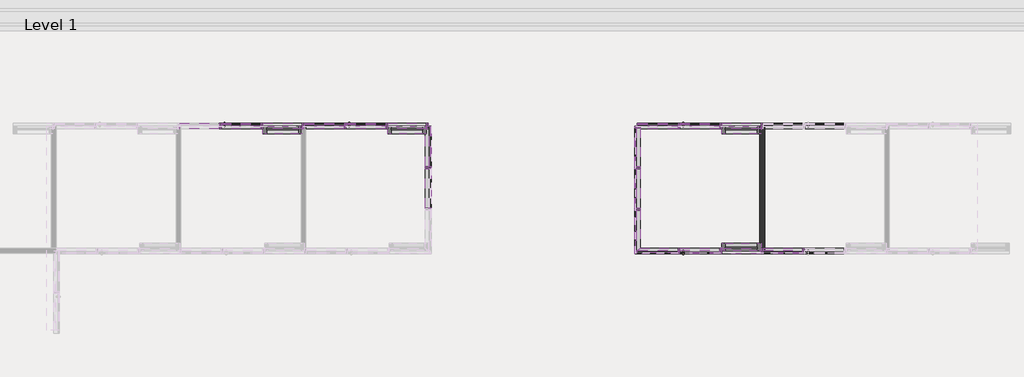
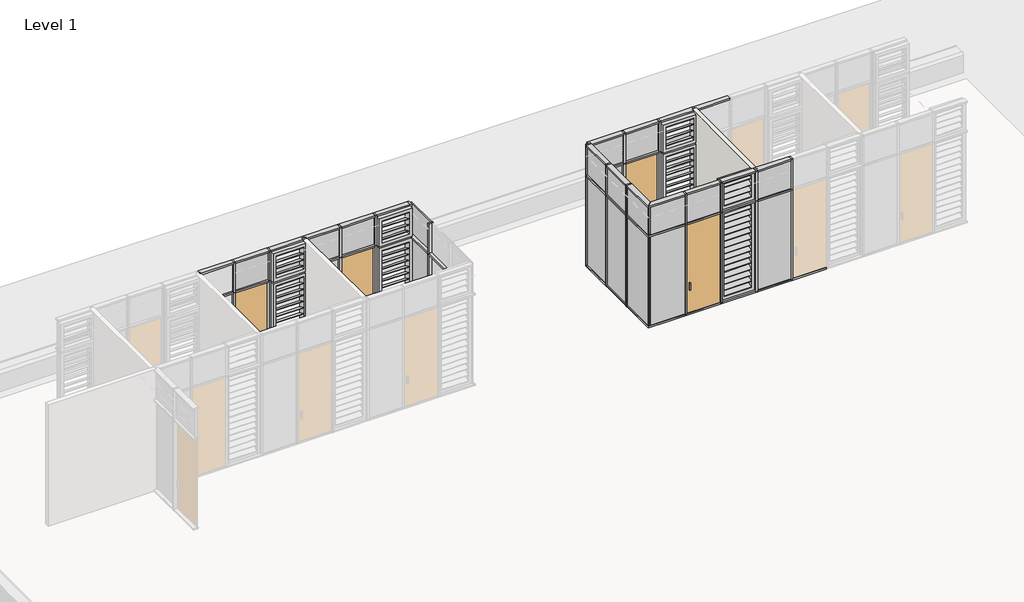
# One storey, part 15 of 32: 89 members, 28 plates, 4 doors, 1 wall.
"""IFC4 building model written with IfcOpenShell, lengths in millimetres."""

from ifc_helpers import new_model, si_unit, frame, origin, place, context, project, spatial, polyline, outline, extrude, transform, mapped, element, save
from components import curtain_wall_door_single_glass_nz_curtain_wall_door_single_2bf20aac, curtain_wall_door_single_glass_nz_curtain_wall_door_single_ff8afd41, rectangular_mullion_50x150mm_c4504768, rectangular_mullion_50x150mm_6c7cb899, rectangular_mullion_50x150mm_b0af8bb0, rectangular_mullion_50x150mm_bbc1c4ea, rectangular_mullion_50x150mm_1a36453b, rectangular_mullion_50x150mm_ef3a484d, rectangular_mullion_50x150mm_593aaa1e, rectangular_mullion_50x150mm_a65b6ca2, rectangular_mullion_50x150mm_38419d34, rectangular_mullion_50x150mm_68c91185, rectangular_mullion_50x150mm_eeb88b28, rectangular_mullion_50x150mm_0d540e17, rectangular_mullion_50x150mm_108cdc6f, rectangular_mullion_50x150mm_714122bf, rectangular_mullion_50x150mm_feac3df2, rectangular_mullion_50x150mm_2309bebb, rectangular_mullion_50x150mm_e53cf1c9, rectangular_mullion_50x150mm_f8d06da4, rectangular_mullion_50x150mm_4a5ed774, curtain_wall_panel_louver_20805_curtain_wall_panel_louver_4af505d4, curtain_wall_panel_louver_20805_curtain_wall_panel_louver_7a5f8102, curtain_wall_panel_louver_20805_curtain_wall_panel_louver_14332c5b, curtain_wall_panel_glass_louver_20805_curtain_wall_panel_036772b2, curtain_wall_panel_glass_louver_20805_curtain_wall_panel_a4448eae, curtain_wall_panel_glass_louver_20805_curtain_wall_panel_0f8e40a1, system_panel_glazed_a5e8ce8b, system_panel_glazed_2ffedfca, system_panel_glazed_7622d22c, system_panel_glazed_a434d42b, system_panel_glazed_53fe5bbb, system_panel_glazed_01376e9d, system_panel_glazed_57f08e05, system_panel_glazed_300e6ed4, system_panel_glazed_c118dd0e, system_panel_solid_585523e5, system_panel_solid_9660e4da, system_panel_solid_746005ab, system_panel_solid_10c0fb46

model = new_model("IFC4")

# Units and contexts
model_context = context("Model", 3, world=origin())
ifc_project = project(units=[si_unit("LENGTHUNIT", "METRE", prefix="MILLI")], contexts=[model_context])

# Site, building, storey
site = spatial("IfcSite", under=ifc_project)
building = spatial("IfcBuilding", under=site)
storey = spatial("IfcBuildingStorey", under=building, Name="Level 1", Elevation=2800.0)

# Doors
placement = place(None, origin())
curtain_wall_door_single_glass_nz_curtain_wall_door_single_shape = curtain_wall_door_single_glass_nz_curtain_wall_door_single_2bf20aac(model_context)
element("IfcDoor", 1, ObjectType="Curtain Wall Door-Single-Glass (NZ) : Curtain Wall Door-Single-Glass (NZ)", at=placement, inside=storey, context=model_context, shape_type="MappedRepresentation", body=[
    mapped(curtain_wall_door_single_glass_nz_curtain_wall_door_single_shape, transform((-66780.3056756, 5494.0800404, 2850.0), x_axis=(1.0, 0.0, 0.0), y_axis=(0.0, 1.0, 0.0), z_axis=(0.0, 0.0, 1.0))),
])
element("IfcDoor", 2, ObjectType="Curtain Wall Door-Single-Glass (NZ) : Curtain Wall Door-Single-Glass (NZ)", at=placement, inside=storey, context=model_context, shape_type="MappedRepresentation", body=[
    mapped(curtain_wall_door_single_glass_nz_curtain_wall_door_single_shape, transform((-75609.8408447, 5494.0800404, 2850.0), x_axis=(1.0, 0.0, 0.0), y_axis=(0.0, 1.0, 0.0), z_axis=(0.0, 0.0, 1.0))),
])
element("IfcDoor", 3, ObjectType="Curtain Wall Door-Single-Glass (NZ) : Curtain Wall Door-Single-Glass (NZ)", at=placement, inside=storey, context=model_context, shape_type="MappedRepresentation", body=[
    mapped(curtain_wall_door_single_glass_nz_curtain_wall_door_single_shape, transform((-78909.8408447, 5494.0800404, 2850.0), x_axis=(1.0, 0.0, 0.0), y_axis=(0.0, 1.0, 0.0), z_axis=(0.0, 0.0, 1.0))),
])
curtain_wall_door_single_glass_nz_curtain_wall_door_single_2_shape = curtain_wall_door_single_glass_nz_curtain_wall_door_single_ff8afd41(model_context)
element("IfcDoor", 4, ObjectType="Curtain Wall Door-Single-Glass (NZ) : Curtain Wall Door-Single-Glass (NZ)", at=placement, inside=storey, context=model_context, shape_type="MappedRepresentation", body=[
    mapped(curtain_wall_door_single_glass_nz_curtain_wall_door_single_2_shape, transform((-66780.3056756, 2194.0800404, 2850.0), x_axis=(1.0, 0.0, 0.0), y_axis=(0.0, 1.0, 0.0), z_axis=(0.0, 0.0, 1.0))),
])

# Members
rectangular_mullion_50x150mm_shape = rectangular_mullion_50x150mm_c4504768(model_context)
element("IfcMember", 5, ObjectType="Rectangular Mullion : 50x150mm", at=placement, inside=storey, context=model_context, shape_type="MappedRepresentation", body=[
    mapped(rectangular_mullion_50x150mm_shape, transform((-65155.3056756, 5494.0800404, 5800.0), x_axis=(0.0, 0.0, 1.0), y_axis=(0.0, -1.0, 0.0), z_axis=(1.0, 0.0, 0.0))),
])
element("IfcMember", 6, ObjectType="Rectangular Mullion : 50x150mm", at=placement, inside=storey, context=model_context, shape_type="MappedRepresentation", body=[
    mapped(rectangular_mullion_50x150mm_shape, transform((-66255.3056756, 5494.0800404, 5800.0), x_axis=(0.0, 0.0, 1.0), y_axis=(0.0, -1.0, 0.0), z_axis=(1.0, 0.0, 0.0))),
])
element("IfcMember", 7, ObjectType="Rectangular Mullion : 50x150mm", at=placement, inside=storey, context=model_context, shape_type="MappedRepresentation", body=[
    mapped(rectangular_mullion_50x150mm_shape, transform((-76184.8408447, 5494.0800404, 5800.0), x_axis=(0.0, 0.0, 1.0), y_axis=(0.0, -1.0, 0.0), z_axis=(1.0, 0.0, 0.0))),
])
element("IfcMember", 8, ObjectType="Rectangular Mullion : 50x150mm", at=placement, inside=storey, context=model_context, shape_type="MappedRepresentation", body=[
    mapped(rectangular_mullion_50x150mm_shape, transform((-79484.8408447, 5494.0800404, 5800.0), x_axis=(0.0, 0.0, 1.0), y_axis=(0.0, -1.0, 0.0), z_axis=(1.0, 0.0, 0.0))),
])
element("IfcMember", 9, ObjectType="Rectangular Mullion : 50x150mm", at=placement, inside=storey, context=model_context, shape_type="MappedRepresentation", body=[
    mapped(rectangular_mullion_50x150mm_shape, transform((-75084.8408447, 5494.0800404, 5800.0), x_axis=(0.0, 0.0, 1.0), y_axis=(0.0, -1.0, 0.0), z_axis=(1.0, 0.0, 0.0))),
])
element("IfcMember", 10, ObjectType="Rectangular Mullion : 50x150mm", at=placement, inside=storey, context=model_context, shape_type="MappedRepresentation", body=[
    mapped(rectangular_mullion_50x150mm_shape, transform((-77284.8408447, 5494.0800404, 5800.0), x_axis=(0.0, 0.0, 1.0), y_axis=(0.0, -1.0, 0.0), z_axis=(1.0, 0.0, 0.0))),
])
element("IfcMember", 11, ObjectType="Rectangular Mullion : 50x150mm", at=placement, inside=storey, context=model_context, shape_type="MappedRepresentation", body=[
    mapped(rectangular_mullion_50x150mm_shape, transform((-78384.8408447, 5494.0800404, 5800.0), x_axis=(0.0, 0.0, 1.0), y_axis=(0.0, -1.0, 0.0), z_axis=(1.0, 0.0, 0.0))),
])
element("IfcMember", 12, ObjectType="Rectangular Mullion : 50x150mm", at=placement, inside=storey, context=model_context, shape_type="MappedRepresentation", body=[
    mapped(rectangular_mullion_50x150mm_shape, transform((-73959.8408447, 3319.0800405, 5800.0), x_axis=(0.0, 0.0, 1.0), y_axis=(-1.0, 0.0, 0.0), z_axis=(0.0, -1.0, 0.0))),
])
element("IfcMember", 13, ObjectType="Rectangular Mullion : 50x150mm", at=placement, inside=storey, context=model_context, shape_type="MappedRepresentation", body=[
    mapped(rectangular_mullion_50x150mm_shape, transform((-68430.3056755, 4369.0800403, 5800.0), x_axis=(0.0, 0.0, 1.0), y_axis=(1.0, 0.0, 0.0), z_axis=(0.0, 1.0, 0.0))),
])
rectangular_mullion_50x150mm_2_shape = rectangular_mullion_50x150mm_6c7cb899(model_context)
element("IfcMember", 14, ObjectType="Rectangular Mullion : 50x150mm", at=placement, inside=storey, context=model_context, shape_type="MappedRepresentation", body=[
    mapped(rectangular_mullion_50x150mm_2_shape, transform((-65130.3056756, 5494.0800404, 2800.0), x_axis=(1.0, 0.0, 0.0), y_axis=(0.0, -1.0, 0.0), z_axis=(0.0, 0.0, -1.0))),
])
element("IfcMember", 15, ObjectType="Rectangular Mullion : 50x150mm", at=placement, inside=storey, context=model_context, shape_type="MappedRepresentation", body=[
    mapped(rectangular_mullion_50x150mm_2_shape, transform((-66230.3056756, 5494.0800404, 2800.0), x_axis=(1.0, 0.0, 0.0), y_axis=(0.0, -1.0, 0.0), z_axis=(0.0, 0.0, -1.0))),
])
element("IfcMember", 16, ObjectType="Rectangular Mullion : 50x150mm", at=placement, inside=storey, context=model_context, shape_type="MappedRepresentation", body=[
    mapped(rectangular_mullion_50x150mm_2_shape, transform((-67330.3056756, 5494.0800404, 2800.0), x_axis=(1.0, 0.0, 0.0), y_axis=(0.0, -1.0, 0.0), z_axis=(0.0, 0.0, -1.0))),
])
element("IfcMember", 17, ObjectType="Rectangular Mullion : 50x150mm", at=placement, inside=storey, context=model_context, shape_type="MappedRepresentation", body=[
    mapped(rectangular_mullion_50x150mm_2_shape, transform((-77259.8408447, 5494.0800404, 2800.0), x_axis=(1.0, 0.0, 0.0), y_axis=(0.0, -1.0, 0.0), z_axis=(0.0, 0.0, -1.0))),
])
element("IfcMember", 18, ObjectType="Rectangular Mullion : 50x150mm", at=placement, inside=storey, context=model_context, shape_type="MappedRepresentation", body=[
    mapped(rectangular_mullion_50x150mm_2_shape, transform((-75059.8408447, 5494.0800404, 2800.0), x_axis=(1.0, 0.0, 0.0), y_axis=(0.0, -1.0, 0.0), z_axis=(0.0, 0.0, -1.0))),
])
element("IfcMember", 19, ObjectType="Rectangular Mullion : 50x150mm", at=placement, inside=storey, context=model_context, shape_type="MappedRepresentation", body=[
    mapped(rectangular_mullion_50x150mm_2_shape, transform((-76159.8408447, 5494.0800404, 2800.0), x_axis=(1.0, 0.0, 0.0), y_axis=(0.0, -1.0, 0.0), z_axis=(0.0, 0.0, -1.0))),
])
element("IfcMember", 20, ObjectType="Rectangular Mullion : 50x150mm", at=placement, inside=storey, context=model_context, shape_type="MappedRepresentation", body=[
    mapped(rectangular_mullion_50x150mm_2_shape, transform((-78359.8408447, 5494.0800404, 2800.0), x_axis=(1.0, 0.0, 0.0), y_axis=(0.0, -1.0, 0.0), z_axis=(0.0, 0.0, -1.0))),
])
element("IfcMember", 21, ObjectType="Rectangular Mullion : 50x150mm", at=placement, inside=storey, context=model_context, shape_type="MappedRepresentation", body=[
    mapped(rectangular_mullion_50x150mm_2_shape, transform((-79459.8408447, 5494.0800404, 2800.0), x_axis=(1.0, 0.0, 0.0), y_axis=(0.0, -1.0, 0.0), z_axis=(0.0, 0.0, -1.0))),
])
element("IfcMember", 22, ObjectType="Rectangular Mullion : 50x150mm", at=placement, inside=storey, context=model_context, shape_type="MappedRepresentation", body=[
    mapped(rectangular_mullion_50x150mm_2_shape, transform((-73959.8408447, 4394.0800403, 2800.0), x_axis=(0.0, -1.0, 0.0), y_axis=(-1.0, 0.0, 0.0), z_axis=(0.0, 0.0, -1.0))),
])
element("IfcMember", 23, ObjectType="Rectangular Mullion : 50x150mm", at=placement, inside=storey, context=model_context, shape_type="MappedRepresentation", body=[
    mapped(rectangular_mullion_50x150mm_2_shape, transform((-68430.3056755, 3294.0800405, 2800.0), x_axis=(0.0, 1.0, 0.0), y_axis=(1.0, 0.0, 0.0), z_axis=(0.0, 0.0, -1.0))),
])
element("IfcMember", 24, ObjectType="Rectangular Mullion : 50x150mm", at=placement, inside=storey, context=model_context, shape_type="MappedRepresentation", body=[
    mapped(rectangular_mullion_50x150mm_2_shape, transform((-68430.3056755, 4394.0800403, 2800.0), x_axis=(0.0, 1.0, 0.0), y_axis=(1.0, 0.0, 0.0), z_axis=(0.0, 0.0, -1.0))),
])
rectangular_mullion_50x150mm_3_shape = rectangular_mullion_50x150mm_b0af8bb0(model_context)
element("IfcMember", 25, ObjectType="Rectangular Mullion : 50x150mm", at=placement, inside=storey, context=model_context, shape_type="MappedRepresentation", body=[
    mapped(rectangular_mullion_50x150mm_3_shape, transform((-64005.3056756, 5494.0800404, 2800.0), x_axis=(0.0, 0.0, -1.0), y_axis=(0.0, -1.0, 0.0), z_axis=(-1.0, 0.0, 0.0))),
])
element("IfcMember", 26, ObjectType="Rectangular Mullion : 50x150mm", at=placement, inside=storey, context=model_context, shape_type="MappedRepresentation", body=[
    mapped(rectangular_mullion_50x150mm_3_shape, transform((-66205.3056756, 5494.0800404, 2800.0), x_axis=(0.0, 0.0, -1.0), y_axis=(0.0, -1.0, 0.0), z_axis=(-1.0, 0.0, 0.0))),
])
element("IfcMember", 27, ObjectType="Rectangular Mullion : 50x150mm", at=placement, inside=storey, context=model_context, shape_type="MappedRepresentation", body=[
    mapped(rectangular_mullion_50x150mm_3_shape, transform((-67305.3056756, 5494.0800404, 2800.0), x_axis=(0.0, 0.0, -1.0), y_axis=(0.0, -1.0, 0.0), z_axis=(-1.0, 0.0, 0.0))),
])
element("IfcMember", 28, ObjectType="Rectangular Mullion : 50x150mm", at=placement, inside=storey, context=model_context, shape_type="MappedRepresentation", body=[
    mapped(rectangular_mullion_50x150mm_3_shape, transform((-65105.3056756, 5494.0800404, 2800.0), x_axis=(0.0, 0.0, -1.0), y_axis=(0.0, -1.0, 0.0), z_axis=(-1.0, 0.0, 0.0))),
])
element("IfcMember", 29, ObjectType="Rectangular Mullion : 50x150mm", at=placement, inside=storey, context=model_context, shape_type="MappedRepresentation", body=[
    mapped(rectangular_mullion_50x150mm_3_shape, transform((-77234.8408447, 5494.0800404, 2800.0), x_axis=(0.0, 0.0, -1.0), y_axis=(0.0, -1.0, 0.0), z_axis=(-1.0, 0.0, 0.0))),
])
element("IfcMember", 30, ObjectType="Rectangular Mullion : 50x150mm", at=placement, inside=storey, context=model_context, shape_type="MappedRepresentation", body=[
    mapped(rectangular_mullion_50x150mm_3_shape, transform((-76134.8408447, 5494.0800404, 2800.0), x_axis=(0.0, 0.0, -1.0), y_axis=(0.0, -1.0, 0.0), z_axis=(-1.0, 0.0, 0.0))),
])
element("IfcMember", 31, ObjectType="Rectangular Mullion : 50x150mm", at=placement, inside=storey, context=model_context, shape_type="MappedRepresentation", body=[
    mapped(rectangular_mullion_50x150mm_3_shape, transform((-78334.8408447, 5494.0800404, 2800.0), x_axis=(0.0, 0.0, -1.0), y_axis=(0.0, -1.0, 0.0), z_axis=(-1.0, 0.0, 0.0))),
])
element("IfcMember", 32, ObjectType="Rectangular Mullion : 50x150mm", at=placement, inside=storey, context=model_context, shape_type="MappedRepresentation", body=[
    mapped(rectangular_mullion_50x150mm_3_shape, transform((-79434.8408447, 5494.0800404, 2800.0), x_axis=(0.0, 0.0, -1.0), y_axis=(0.0, -1.0, 0.0), z_axis=(-1.0, 0.0, 0.0))),
])
element("IfcMember", 33, ObjectType="Rectangular Mullion : 50x150mm", at=placement, inside=storey, context=model_context, shape_type="MappedRepresentation", body=[
    mapped(rectangular_mullion_50x150mm_3_shape, transform((-73959.8408447, 4369.0800403, 2800.0), x_axis=(0.0, 0.0, -1.0), y_axis=(-1.0, 0.0, 0.0), z_axis=(0.0, 1.0, 0.0))),
])
element("IfcMember", 34, ObjectType="Rectangular Mullion : 50x150mm", at=placement, inside=storey, context=model_context, shape_type="MappedRepresentation", body=[
    mapped(rectangular_mullion_50x150mm_3_shape, transform((-68430.3056755, 3319.0800405, 2800.0), x_axis=(0.0, 0.0, -1.0), y_axis=(1.0, 0.0, 0.0), z_axis=(0.0, -1.0, 0.0))),
])
rectangular_mullion_50x150mm_4_shape = rectangular_mullion_50x150mm_bbc1c4ea(model_context)
element("IfcMember", 35, ObjectType="Rectangular Mullion : 50x150mm", at=placement, inside=storey, context=model_context, shape_type="MappedRepresentation", body=[
    mapped(rectangular_mullion_50x150mm_4_shape, transform((-65130.3056756, 5494.0800404, 5800.0), x_axis=(1.0, 0.0, 0.0), y_axis=(0.0, -1.0, 0.0), z_axis=(0.0, 0.0, -1.0))),
])
element("IfcMember", 36, ObjectType="Rectangular Mullion : 50x150mm", at=placement, inside=storey, context=model_context, shape_type="MappedRepresentation", body=[
    mapped(rectangular_mullion_50x150mm_4_shape, transform((-66230.3056756, 5494.0800404, 5800.0), x_axis=(1.0, 0.0, 0.0), y_axis=(0.0, -1.0, 0.0), z_axis=(0.0, 0.0, -1.0))),
])
element("IfcMember", 37, ObjectType="Rectangular Mullion : 50x150mm", at=placement, inside=storey, context=model_context, shape_type="MappedRepresentation", body=[
    mapped(rectangular_mullion_50x150mm_4_shape, transform((-67330.3056756, 5494.0800404, 5800.0), x_axis=(1.0, 0.0, 0.0), y_axis=(0.0, -1.0, 0.0), z_axis=(0.0, 0.0, -1.0))),
])
element("IfcMember", 38, ObjectType="Rectangular Mullion : 50x150mm", at=placement, inside=storey, context=model_context, shape_type="MappedRepresentation", body=[
    mapped(rectangular_mullion_50x150mm_4_shape, transform((-77259.8408447, 5494.0800404, 5800.0), x_axis=(1.0, 0.0, 0.0), y_axis=(0.0, -1.0, 0.0), z_axis=(0.0, 0.0, -1.0))),
])
element("IfcMember", 39, ObjectType="Rectangular Mullion : 50x150mm", at=placement, inside=storey, context=model_context, shape_type="MappedRepresentation", body=[
    mapped(rectangular_mullion_50x150mm_4_shape, transform((-75059.8408447, 5494.0800404, 5800.0), x_axis=(1.0, 0.0, 0.0), y_axis=(0.0, -1.0, 0.0), z_axis=(0.0, 0.0, -1.0))),
])
element("IfcMember", 40, ObjectType="Rectangular Mullion : 50x150mm", at=placement, inside=storey, context=model_context, shape_type="MappedRepresentation", body=[
    mapped(rectangular_mullion_50x150mm_4_shape, transform((-76159.8408447, 5494.0800404, 5800.0), x_axis=(1.0, 0.0, 0.0), y_axis=(0.0, -1.0, 0.0), z_axis=(0.0, 0.0, -1.0))),
])
element("IfcMember", 41, ObjectType="Rectangular Mullion : 50x150mm", at=placement, inside=storey, context=model_context, shape_type="MappedRepresentation", body=[
    mapped(rectangular_mullion_50x150mm_4_shape, transform((-78359.8408447, 5494.0800404, 5800.0), x_axis=(1.0, 0.0, 0.0), y_axis=(0.0, -1.0, 0.0), z_axis=(0.0, 0.0, -1.0))),
])
element("IfcMember", 42, ObjectType="Rectangular Mullion : 50x150mm", at=placement, inside=storey, context=model_context, shape_type="MappedRepresentation", body=[
    mapped(rectangular_mullion_50x150mm_4_shape, transform((-79459.8408447, 5494.0800404, 5800.0), x_axis=(1.0, 0.0, 0.0), y_axis=(0.0, -1.0, 0.0), z_axis=(0.0, 0.0, -1.0))),
])
element("IfcMember", 43, ObjectType="Rectangular Mullion : 50x150mm", at=placement, inside=storey, context=model_context, shape_type="MappedRepresentation", body=[
    mapped(rectangular_mullion_50x150mm_4_shape, transform((-68430.3056755, 3294.0800405, 5800.0), x_axis=(0.0, 1.0, 0.0), y_axis=(1.0, 0.0, 0.0), z_axis=(0.0, 0.0, -1.0))),
])
element("IfcMember", 44, ObjectType="Rectangular Mullion : 50x150mm", at=placement, inside=storey, context=model_context, shape_type="MappedRepresentation", body=[
    mapped(rectangular_mullion_50x150mm_4_shape, transform((-68430.3056755, 4394.0800403, 5800.0), x_axis=(0.0, 1.0, 0.0), y_axis=(1.0, 0.0, 0.0), z_axis=(0.0, 0.0, -1.0))),
])
rectangular_mullion_50x150mm_5_shape = rectangular_mullion_50x150mm_1a36453b(model_context)
element("IfcMember", 45, ObjectType="Rectangular Mullion : 50x150mm", at=placement, inside=storey, context=model_context, shape_type="MappedRepresentation", body=[
    mapped(rectangular_mullion_50x150mm_5_shape, transform((-64055.3056756, 5494.0800404, 6800.0), x_axis=(0.0, 0.0, 1.0), y_axis=(0.0, -1.0, 0.0), z_axis=(1.0, 0.0, 0.0))),
])
element("IfcMember", 46, ObjectType="Rectangular Mullion : 50x150mm", at=placement, inside=storey, context=model_context, shape_type="MappedRepresentation", body=[
    mapped(rectangular_mullion_50x150mm_5_shape, transform((-66255.3056756, 5494.0800404, 6800.0), x_axis=(0.0, 0.0, 1.0), y_axis=(0.0, -1.0, 0.0), z_axis=(1.0, 0.0, 0.0))),
])
element("IfcMember", 47, ObjectType="Rectangular Mullion : 50x150mm", at=placement, inside=storey, context=model_context, shape_type="MappedRepresentation", body=[
    mapped(rectangular_mullion_50x150mm_5_shape, transform((-65155.3056756, 5494.0800404, 6800.0), x_axis=(0.0, 0.0, 1.0), y_axis=(0.0, -1.0, 0.0), z_axis=(1.0, 0.0, 0.0))),
])
element("IfcMember", 48, ObjectType="Rectangular Mullion : 50x150mm", at=placement, inside=storey, context=model_context, shape_type="MappedRepresentation", body=[
    mapped(rectangular_mullion_50x150mm_5_shape, transform((-77284.8408447, 5494.0800404, 6800.0), x_axis=(0.0, 0.0, 1.0), y_axis=(0.0, -1.0, 0.0), z_axis=(1.0, 0.0, 0.0))),
])
element("IfcMember", 49, ObjectType="Rectangular Mullion : 50x150mm", at=placement, inside=storey, context=model_context, shape_type="MappedRepresentation", body=[
    mapped(rectangular_mullion_50x150mm_5_shape, transform((-75084.8408447, 5494.0800404, 6800.0), x_axis=(0.0, 0.0, 1.0), y_axis=(0.0, -1.0, 0.0), z_axis=(1.0, 0.0, 0.0))),
])
element("IfcMember", 50, ObjectType="Rectangular Mullion : 50x150mm", at=placement, inside=storey, context=model_context, shape_type="MappedRepresentation", body=[
    mapped(rectangular_mullion_50x150mm_5_shape, transform((-76184.8408447, 5494.0800404, 6800.0), x_axis=(0.0, 0.0, 1.0), y_axis=(0.0, -1.0, 0.0), z_axis=(1.0, 0.0, 0.0))),
])
element("IfcMember", 51, ObjectType="Rectangular Mullion : 50x150mm", at=placement, inside=storey, context=model_context, shape_type="MappedRepresentation", body=[
    mapped(rectangular_mullion_50x150mm_5_shape, transform((-78384.8408447, 5494.0800404, 6800.0), x_axis=(0.0, 0.0, 1.0), y_axis=(0.0, -1.0, 0.0), z_axis=(1.0, 0.0, 0.0))),
])
element("IfcMember", 52, ObjectType="Rectangular Mullion : 50x150mm", at=placement, inside=storey, context=model_context, shape_type="MappedRepresentation", body=[
    mapped(rectangular_mullion_50x150mm_5_shape, transform((-79484.8408447, 5494.0800404, 6800.0), x_axis=(0.0, 0.0, 1.0), y_axis=(0.0, -1.0, 0.0), z_axis=(1.0, 0.0, 0.0))),
])
element("IfcMember", 53, ObjectType="Rectangular Mullion : 50x150mm", at=placement, inside=storey, context=model_context, shape_type="MappedRepresentation", body=[
    mapped(rectangular_mullion_50x150mm_5_shape, transform((-68430.3056755, 4369.0800403, 6800.0), x_axis=(0.0, 0.0, 1.0), y_axis=(1.0, 0.0, 0.0), z_axis=(0.0, 1.0, 0.0))),
])
rectangular_mullion_50x150mm_6_shape = rectangular_mullion_50x150mm_ef3a484d(model_context)
element("IfcMember", 54, ObjectType="Rectangular Mullion : 50x150mm", at=placement, inside=storey, context=model_context, shape_type="MappedRepresentation", body=[
    mapped(rectangular_mullion_50x150mm_6_shape, transform((-67355.3056756, 5494.0800404, 5800.0), x_axis=(0.0, 0.0, 1.0), y_axis=(0.0, -1.0, 0.0), z_axis=(1.0, 0.0, 0.0))),
])
element("IfcMember", 55, ObjectType="Rectangular Mullion : 50x150mm", at=placement, inside=storey, context=model_context, shape_type="MappedRepresentation", body=[
    mapped(rectangular_mullion_50x150mm_6_shape, transform((-73959.8408447, 4419.0800403, 5800.0), x_axis=(0.0, 0.0, 1.0), y_axis=(-1.0, 0.0, 0.0), z_axis=(0.0, -1.0, 0.0))),
])
rectangular_mullion_50x150mm_7_shape = rectangular_mullion_50x150mm_593aaa1e(model_context)
element("IfcMember", 56, ObjectType="Rectangular Mullion : 50x150mm", at=placement, inside=storey, context=model_context, shape_type="MappedRepresentation", body=[
    mapped(rectangular_mullion_50x150mm_7_shape, transform((-68430.3056755, 5494.0800404, 2800.0), x_axis=(0.0, 0.0, -1.0), y_axis=(0.0, -1.0, 0.0), z_axis=(-1.0, 0.0, 0.0))),
])
element("IfcMember", 57, ObjectType="Rectangular Mullion : 50x150mm", at=placement, inside=storey, context=model_context, shape_type="MappedRepresentation", body=[
    mapped(rectangular_mullion_50x150mm_7_shape, transform((-73959.8408447, 5494.0800404, 2800.0), x_axis=(0.0, 0.0, -1.0), y_axis=(-1.0, 0.0, 0.0), z_axis=(0.0, 1.0, 0.0))),
])
element("IfcMember", 58, ObjectType="Rectangular Mullion : 50x150mm", at=placement, inside=storey, context=model_context, shape_type="MappedRepresentation", body=[
    mapped(rectangular_mullion_50x150mm_7_shape, transform((-67355.3056756, 5494.0800404, 6800.0), x_axis=(0.0, 0.0, 1.0), y_axis=(0.0, -1.0, 0.0), z_axis=(1.0, 0.0, 0.0))),
])
rectangular_mullion_50x150mm_8_shape = rectangular_mullion_50x150mm_a65b6ca2(model_context)
element("IfcMember", 59, ObjectType="Rectangular Mullion : 50x150mm", at=placement, inside=storey, context=model_context, shape_type="MappedRepresentation", body=[
    mapped(rectangular_mullion_50x150mm_8_shape, transform((-74009.8408447, 5494.0800404, 6800.0), x_axis=(0.0, 0.0, 1.0), y_axis=(0.0, -1.0, 0.0), z_axis=(1.0, 0.0, 0.0))),
])
element("IfcMember", 60, ObjectType="Rectangular Mullion : 50x150mm", at=placement, inside=storey, context=model_context, shape_type="MappedRepresentation", body=[
    mapped(rectangular_mullion_50x150mm_8_shape, transform((-68430.3056755, 5444.0800404, 6800.0), x_axis=(0.0, 0.0, 1.0), y_axis=(1.0, 0.0, 0.0), z_axis=(0.0, 1.0, 0.0))),
])
element("IfcMember", 61, ObjectType="Rectangular Mullion : 50x150mm", at=placement, inside=storey, context=model_context, shape_type="MappedRepresentation", body=[
    mapped(rectangular_mullion_50x150mm_8_shape, transform((-75034.8408447, 5494.0800404, 2800.0), x_axis=(0.0, 0.0, -1.0), y_axis=(0.0, -1.0, 0.0), z_axis=(-1.0, 0.0, 0.0))),
])
element("IfcMember", 62, ObjectType="Rectangular Mullion : 50x150mm", at=placement, inside=storey, context=model_context, shape_type="MappedRepresentation", body=[
    mapped(rectangular_mullion_50x150mm_8_shape, transform((-68430.3056755, 4419.0800403, 2800.0), x_axis=(0.0, 0.0, -1.0), y_axis=(1.0, 0.0, 0.0), z_axis=(0.0, -1.0, 0.0))),
])
rectangular_mullion_50x150mm_9_shape = rectangular_mullion_50x150mm_38419d34(model_context)
element("IfcMember", 63, ObjectType="Rectangular Mullion : 50x150mm", at=placement, inside=storey, context=model_context, shape_type="MappedRepresentation", body=[
    mapped(rectangular_mullion_50x150mm_9_shape, transform((-74009.8408447, 5494.0800404, 5800.0), x_axis=(0.0, 0.0, 1.0), y_axis=(0.0, -1.0, 0.0), z_axis=(1.0, 0.0, 0.0))),
])
element("IfcMember", 64, ObjectType="Rectangular Mullion : 50x150mm", at=placement, inside=storey, context=model_context, shape_type="MappedRepresentation", body=[
    mapped(rectangular_mullion_50x150mm_9_shape, transform((-68430.3056755, 5444.0800404, 5800.0), x_axis=(0.0, 0.0, 1.0), y_axis=(1.0, 0.0, 0.0), z_axis=(0.0, 1.0, 0.0))),
])
rectangular_mullion_50x150mm_10_shape = rectangular_mullion_50x150mm_68c91185(model_context)
element("IfcMember", 65, ObjectType="Rectangular Mullion : 50x150mm", at=placement, inside=storey, context=model_context, shape_type="MappedRepresentation", body=[
    mapped(rectangular_mullion_50x150mm_10_shape, transform((-73959.8408447, 5494.0800404, 2800.0), x_axis=(1.0, 0.0, 0.0), y_axis=(0.0, -1.0, 0.0), z_axis=(0.0, 0.0, -1.0))),
])
element("IfcMember", 66, ObjectType="Rectangular Mullion : 50x150mm", at=placement, inside=storey, context=model_context, shape_type="MappedRepresentation", body=[
    mapped(rectangular_mullion_50x150mm_10_shape, transform((-68430.3056755, 5494.0800404, 2800.0), x_axis=(0.0, 1.0, 0.0), y_axis=(1.0, 0.0, 0.0), z_axis=(0.0, 0.0, -1.0))),
])
rectangular_mullion_50x150mm_11_shape = rectangular_mullion_50x150mm_eeb88b28(model_context)
element("IfcMember", 67, ObjectType="Rectangular Mullion : 50x150mm", at=placement, inside=storey, context=model_context, shape_type="MappedRepresentation", body=[
    mapped(rectangular_mullion_50x150mm_11_shape, transform((-73959.8408447, 5494.0800404, 5800.0), x_axis=(1.0, 0.0, 0.0), y_axis=(0.0, -1.0, 0.0), z_axis=(0.0, 0.0, -1.0))),
])
element("IfcMember", 68, ObjectType="Rectangular Mullion : 50x150mm", at=placement, inside=storey, context=model_context, shape_type="MappedRepresentation", body=[
    mapped(rectangular_mullion_50x150mm_11_shape, transform((-68430.3056755, 5494.0800404, 5800.0), x_axis=(0.0, 1.0, 0.0), y_axis=(1.0, 0.0, 0.0), z_axis=(0.0, 0.0, -1.0))),
])
element("IfcMember", 69, ObjectType="Rectangular Mullion : 50x150mm", at=placement, inside=storey, context=model_context, shape_type="MappedRepresentation", body=[
    mapped(rectangular_mullion_50x150mm_4_shape, transform((-64030.3056756, 2194.0800404, 5800.0), x_axis=(1.0, 0.0, 0.0), y_axis=(0.0, -1.0, 0.0), z_axis=(0.0, 0.0, -1.0))),
])
element("IfcMember", 70, ObjectType="Rectangular Mullion : 50x150mm", at=placement, inside=storey, context=model_context, shape_type="MappedRepresentation", body=[
    mapped(rectangular_mullion_50x150mm_4_shape, transform((-65130.3056756, 2194.0800404, 5800.0), x_axis=(1.0, 0.0, 0.0), y_axis=(0.0, -1.0, 0.0), z_axis=(0.0, 0.0, -1.0))),
])
element("IfcMember", 71, ObjectType="Rectangular Mullion : 50x150mm", at=placement, inside=storey, context=model_context, shape_type="MappedRepresentation", body=[
    mapped(rectangular_mullion_50x150mm_4_shape, transform((-66230.3056756, 2194.0800404, 5800.0), x_axis=(1.0, 0.0, 0.0), y_axis=(0.0, -1.0, 0.0), z_axis=(0.0, 0.0, -1.0))),
])
element("IfcMember", 72, ObjectType="Rectangular Mullion : 50x150mm", at=placement, inside=storey, context=model_context, shape_type="MappedRepresentation", body=[
    mapped(rectangular_mullion_50x150mm_4_shape, transform((-67330.3056756, 2194.0800404, 5800.0), x_axis=(1.0, 0.0, 0.0), y_axis=(0.0, -1.0, 0.0), z_axis=(0.0, 0.0, -1.0))),
])
element("IfcMember", 73, ObjectType="Rectangular Mullion : 50x150mm", at=placement, inside=storey, context=model_context, shape_type="MappedRepresentation", body=[
    mapped(rectangular_mullion_50x150mm_2_shape, transform((-64030.3056756, 2194.0800404, 2800.0), x_axis=(1.0, 0.0, 0.0), y_axis=(0.0, -1.0, 0.0), z_axis=(0.0, 0.0, -1.0))),
])
element("IfcMember", 74, ObjectType="Rectangular Mullion : 50x150mm", at=placement, inside=storey, context=model_context, shape_type="MappedRepresentation", body=[
    mapped(rectangular_mullion_50x150mm_2_shape, transform((-65130.3056756, 2194.0800404, 2800.0), x_axis=(1.0, 0.0, 0.0), y_axis=(0.0, -1.0, 0.0), z_axis=(0.0, 0.0, -1.0))),
])
element("IfcMember", 75, ObjectType="Rectangular Mullion : 50x150mm", at=placement, inside=storey, context=model_context, shape_type="MappedRepresentation", body=[
    mapped(rectangular_mullion_50x150mm_2_shape, transform((-66230.3056756, 2194.0800404, 2800.0), x_axis=(1.0, 0.0, 0.0), y_axis=(0.0, -1.0, 0.0), z_axis=(0.0, 0.0, -1.0))),
])
element("IfcMember", 76, ObjectType="Rectangular Mullion : 50x150mm", at=placement, inside=storey, context=model_context, shape_type="MappedRepresentation", body=[
    mapped(rectangular_mullion_50x150mm_2_shape, transform((-67330.3056756, 2194.0800404, 2800.0), x_axis=(1.0, 0.0, 0.0), y_axis=(0.0, -1.0, 0.0), z_axis=(0.0, 0.0, -1.0))),
])
rectangular_mullion_50x150mm_12_shape = rectangular_mullion_50x150mm_0d540e17(model_context)
element("IfcMember", 77, ObjectType="Rectangular Mullion : 50x150mm", at=placement, inside=storey, context=model_context, shape_type="MappedRepresentation", body=[
    mapped(rectangular_mullion_50x150mm_12_shape, transform((-65155.3056756, 2194.0800404, 5800.0), x_axis=(0.0, 0.0, 1.0), y_axis=(0.0, -1.0, 0.0), z_axis=(1.0, 0.0, 0.0))),
])
element("IfcMember", 78, ObjectType="Rectangular Mullion : 50x150mm", at=placement, inside=storey, context=model_context, shape_type="MappedRepresentation", body=[
    mapped(rectangular_mullion_50x150mm_12_shape, transform((-66255.3056756, 2194.0800404, 5800.0), x_axis=(0.0, 0.0, 1.0), y_axis=(0.0, -1.0, 0.0), z_axis=(1.0, 0.0, 0.0))),
])
element("IfcMember", 79, ObjectType="Rectangular Mullion : 50x150mm", at=placement, inside=storey, context=model_context, shape_type="MappedRepresentation", body=[
    mapped(rectangular_mullion_50x150mm_12_shape, transform((-64055.3056756, 2194.0800404, 5800.0), x_axis=(0.0, 0.0, 1.0), y_axis=(0.0, -1.0, 0.0), z_axis=(1.0, 0.0, 0.0))),
])
rectangular_mullion_50x150mm_13_shape = rectangular_mullion_50x150mm_108cdc6f(model_context)
element("IfcMember", 80, ObjectType="Rectangular Mullion : 50x150mm", at=placement, inside=storey, context=model_context, shape_type="MappedRepresentation", body=[
    mapped(rectangular_mullion_50x150mm_13_shape, transform((-64005.3056756, 2194.0800404, 2800.0), x_axis=(0.0, 0.0, -1.0), y_axis=(0.0, -1.0, 0.0), z_axis=(-1.0, 0.0, 0.0))),
])
element("IfcMember", 81, ObjectType="Rectangular Mullion : 50x150mm", at=placement, inside=storey, context=model_context, shape_type="MappedRepresentation", body=[
    mapped(rectangular_mullion_50x150mm_13_shape, transform((-66205.3056756, 2194.0800404, 2800.0), x_axis=(0.0, 0.0, -1.0), y_axis=(0.0, -1.0, 0.0), z_axis=(-1.0, 0.0, 0.0))),
])
element("IfcMember", 82, ObjectType="Rectangular Mullion : 50x150mm", at=placement, inside=storey, context=model_context, shape_type="MappedRepresentation", body=[
    mapped(rectangular_mullion_50x150mm_13_shape, transform((-67305.3056756, 2194.0800404, 2800.0), x_axis=(0.0, 0.0, -1.0), y_axis=(0.0, -1.0, 0.0), z_axis=(-1.0, 0.0, 0.0))),
])
element("IfcMember", 83, ObjectType="Rectangular Mullion : 50x150mm", at=placement, inside=storey, context=model_context, shape_type="MappedRepresentation", body=[
    mapped(rectangular_mullion_50x150mm_13_shape, transform((-65105.3056756, 2194.0800404, 2800.0), x_axis=(0.0, 0.0, -1.0), y_axis=(0.0, -1.0, 0.0), z_axis=(-1.0, 0.0, 0.0))),
])
element("IfcMember", 84, ObjectType="Rectangular Mullion : 50x150mm", at=placement, inside=storey, context=model_context, shape_type="MappedRepresentation", body=[
    mapped(rectangular_mullion_50x150mm_5_shape, transform((-64055.3056756, 2194.0800404, 6800.0), x_axis=(0.0, 0.0, 1.0), y_axis=(0.0, -1.0, 0.0), z_axis=(1.0, 0.0, 0.0))),
])
element("IfcMember", 85, ObjectType="Rectangular Mullion : 50x150mm", at=placement, inside=storey, context=model_context, shape_type="MappedRepresentation", body=[
    mapped(rectangular_mullion_50x150mm_5_shape, transform((-66255.3056756, 2194.0800404, 6800.0), x_axis=(0.0, 0.0, 1.0), y_axis=(0.0, -1.0, 0.0), z_axis=(1.0, 0.0, 0.0))),
])
element("IfcMember", 86, ObjectType="Rectangular Mullion : 50x150mm", at=placement, inside=storey, context=model_context, shape_type="MappedRepresentation", body=[
    mapped(rectangular_mullion_50x150mm_5_shape, transform((-65155.3056756, 2194.0800404, 6800.0), x_axis=(0.0, 0.0, 1.0), y_axis=(0.0, -1.0, 0.0), z_axis=(1.0, 0.0, 0.0))),
])
element("IfcMember", 87, ObjectType="Rectangular Mullion : 50x150mm", at=placement, inside=storey, context=model_context, shape_type="MappedRepresentation", body=[
    mapped(rectangular_mullion_50x150mm_4_shape, transform((-73959.8408447, 4394.0800403, 5800.0), x_axis=(0.0, -1.0, 0.0), y_axis=(-1.0, 0.0, 0.0), z_axis=(0.0, 0.0, -1.0))),
])
rectangular_mullion_50x150mm_14_shape = rectangular_mullion_50x150mm_714122bf(model_context)
element("IfcMember", 88, ObjectType="Rectangular Mullion : 50x150mm", at=placement, inside=storey, context=model_context, shape_type="MappedRepresentation", body=[
    mapped(rectangular_mullion_50x150mm_14_shape, transform((-68430.3056755, 3269.0800405, 5800.0), x_axis=(0.0, 0.0, 1.0), y_axis=(1.0, 0.0, 0.0), z_axis=(0.0, 1.0, 0.0))),
])
rectangular_mullion_50x150mm_15_shape = rectangular_mullion_50x150mm_feac3df2(model_context)
element("IfcMember", 89, ObjectType="Rectangular Mullion : 50x150mm", at=placement, inside=storey, context=model_context, shape_type="MappedRepresentation", body=[
    mapped(rectangular_mullion_50x150mm_15_shape, transform((-67355.3056756, 2194.0800404, 5800.0), x_axis=(0.0, 0.0, 1.0), y_axis=(0.0, -1.0, 0.0), z_axis=(1.0, 0.0, 0.0))),
])
rectangular_mullion_50x150mm_16_shape = rectangular_mullion_50x150mm_2309bebb(model_context)
element("IfcMember", 90, ObjectType="Rectangular Mullion : 50x150mm", at=placement, inside=storey, context=model_context, shape_type="MappedRepresentation", body=[
    mapped(rectangular_mullion_50x150mm_16_shape, transform((-68430.3056755, 2194.0800404, 2800.0), x_axis=(0.0, 0.0, -1.0), y_axis=(1.0, 0.0, 0.0), z_axis=(0.0, -1.0, 0.0))),
])
rectangular_mullion_50x150mm_17_shape = rectangular_mullion_50x150mm_e53cf1c9(model_context)
element("IfcMember", 91, ObjectType="Rectangular Mullion : 50x150mm", at=placement, inside=storey, context=model_context, shape_type="MappedRepresentation", body=[
    mapped(rectangular_mullion_50x150mm_17_shape, transform((-68430.3056755, 2194.0800404, 2800.0), x_axis=(0.0, 0.0, -1.0), y_axis=(0.0, -1.0, 0.0), z_axis=(-1.0, 0.0, 0.0))),
])
rectangular_mullion_50x150mm_18_shape = rectangular_mullion_50x150mm_f8d06da4(model_context)
element("IfcMember", 92, ObjectType="Rectangular Mullion : 50x150mm", at=placement, inside=storey, context=model_context, shape_type="MappedRepresentation", body=[
    mapped(rectangular_mullion_50x150mm_18_shape, transform((-68430.3056755, 3269.0800405, 6800.0), x_axis=(0.0, 0.0, 1.0), y_axis=(1.0, 0.0, 0.0), z_axis=(0.0, 1.0, 0.0))),
])
rectangular_mullion_50x150mm_19_shape = rectangular_mullion_50x150mm_4a5ed774(model_context)
element("IfcMember", 93, ObjectType="Rectangular Mullion : 50x150mm", at=placement, inside=storey, context=model_context, shape_type="MappedRepresentation", body=[
    mapped(rectangular_mullion_50x150mm_19_shape, transform((-67355.3056756, 2194.0800404, 6800.0), x_axis=(0.0, 0.0, 1.0), y_axis=(0.0, -1.0, 0.0), z_axis=(1.0, 0.0, 0.0))),
])

# Plates
curtain_wall_panel_louver_20805_curtain_wall_panel_louver_shape = curtain_wall_panel_louver_20805_curtain_wall_panel_louver_4af505d4(model_context)
element("IfcPlate", 94, ObjectType="Curtain_wall_panel_-_Louver_20805 : Curtain_wall_panel_-_Louver_20805", at=placement, inside=storey, context=model_context, shape_type="MappedRepresentation", body=[
    mapped(curtain_wall_panel_louver_20805_curtain_wall_panel_louver_shape, transform((-65680.3056756, 5494.0800404, 5825.0), x_axis=(1.0, 0.0, 0.0), y_axis=(0.0, 1.0, 0.0), z_axis=(0.0, 0.0, 1.0))),
])
element("IfcPlate", 95, ObjectType="Curtain_wall_panel_-_Louver_20805 : Curtain_wall_panel_-_Louver_20805", at=placement, inside=storey, context=model_context, shape_type="MappedRepresentation", body=[
    mapped(curtain_wall_panel_louver_20805_curtain_wall_panel_louver_shape, transform((-77809.8408447, 5494.0800404, 5825.0), x_axis=(1.0, 0.0, 0.0), y_axis=(0.0, 1.0, 0.0), z_axis=(0.0, 0.0, 1.0))),
])
curtain_wall_panel_louver_20805_curtain_wall_panel_louver_2_shape = curtain_wall_panel_louver_20805_curtain_wall_panel_louver_7a5f8102(model_context)
element("IfcPlate", 96, ObjectType="Curtain_wall_panel_-_Louver_20805 : Curtain_wall_panel_-_Louver_20805", at=placement, inside=storey, context=model_context, shape_type="MappedRepresentation", body=[
    mapped(curtain_wall_panel_louver_20805_curtain_wall_panel_louver_2_shape, transform((-74522.3408447, 5494.0800404, 5825.0), x_axis=(1.0, 0.0, 0.0), y_axis=(0.0, 1.0, 0.0), z_axis=(0.0, 0.0, 1.0))),
])
curtain_wall_panel_louver_20805_curtain_wall_panel_louver_3_shape = curtain_wall_panel_louver_20805_curtain_wall_panel_louver_14332c5b(model_context)
element("IfcPlate", 97, ObjectType="Curtain_wall_panel_-_Louver_20805 : Curtain_wall_panel_-_Louver_20805", at=placement, inside=storey, context=model_context, shape_type="MappedRepresentation", body=[
    mapped(curtain_wall_panel_louver_20805_curtain_wall_panel_louver_3_shape, transform((-65680.3056756, 2194.0800404, 5825.0), x_axis=(1.0, 0.0, 0.0), y_axis=(0.0, 1.0, 0.0), z_axis=(0.0, 0.0, 1.0))),
])
curtain_wall_panel_glass_louver_20805_curtain_wall_panel_shape = curtain_wall_panel_glass_louver_20805_curtain_wall_panel_036772b2(model_context)
element("IfcPlate", 98, ObjectType="Curtain_wall_panel_glass_Louver_20805 : Curtain_wall_panel_glass_Louver_20805", at=placement, inside=storey, context=model_context, shape_type="MappedRepresentation", body=[
    mapped(curtain_wall_panel_glass_louver_20805_curtain_wall_panel_shape, transform((-65680.3056756, 5494.0800404, 2850.0), x_axis=(1.0, 0.0, 0.0), y_axis=(0.0, 1.0, 0.0), z_axis=(0.0, 0.0, 1.0))),
])
element("IfcPlate", 99, ObjectType="Curtain_wall_panel_glass_Louver_20805 : Curtain_wall_panel_glass_Louver_20805", at=placement, inside=storey, context=model_context, shape_type="MappedRepresentation", body=[
    mapped(curtain_wall_panel_glass_louver_20805_curtain_wall_panel_shape, transform((-77809.8408447, 5494.0800404, 2850.0), x_axis=(1.0, 0.0, 0.0), y_axis=(0.0, 1.0, 0.0), z_axis=(0.0, 0.0, 1.0))),
])
curtain_wall_panel_glass_louver_20805_curtain_wall_panel_2_shape = curtain_wall_panel_glass_louver_20805_curtain_wall_panel_a4448eae(model_context)
element("IfcPlate", 100, ObjectType="Curtain_wall_panel_glass_Louver_20805 : Curtain_wall_panel_glass_Louver_20805", at=placement, inside=storey, context=model_context, shape_type="MappedRepresentation", body=[
    mapped(curtain_wall_panel_glass_louver_20805_curtain_wall_panel_2_shape, transform((-74522.3408447, 5494.0800404, 2850.0), x_axis=(1.0, 0.0, 0.0), y_axis=(0.0, 1.0, 0.0), z_axis=(0.0, 0.0, 1.0))),
])
curtain_wall_panel_glass_louver_20805_curtain_wall_panel_3_shape = curtain_wall_panel_glass_louver_20805_curtain_wall_panel_0f8e40a1(model_context)
element("IfcPlate", 101, ObjectType="Curtain_wall_panel_glass_Louver_20805 : Curtain_wall_panel_glass_Louver_20805", at=placement, inside=storey, context=model_context, shape_type="MappedRepresentation", body=[
    mapped(curtain_wall_panel_glass_louver_20805_curtain_wall_panel_3_shape, transform((-65680.3056756, 2194.0800404, 2850.0), x_axis=(1.0, 0.0, 0.0), y_axis=(0.0, 1.0, 0.0), z_axis=(0.0, 0.0, 1.0))),
])
system_panel_glazed_shape = system_panel_glazed_a5e8ce8b(model_context)
element("IfcPlate", 102, ObjectType="System Panel : Glazed", at=placement, inside=storey, context=model_context, shape_type="MappedRepresentation", body=[
    mapped(system_panel_glazed_shape, transform((-68430.3056755, 3844.0800404, 2850.0), x_axis=(0.0, 1.0, 0.0), y_axis=(-1.0, 0.0, 0.0), z_axis=(0.0, 0.0, 1.0))),
])
element("IfcPlate", 103, ObjectType="System Panel : Glazed", at=placement, inside=storey, context=model_context, shape_type="MappedRepresentation", body=[
    mapped(system_panel_glazed_shape, transform((-76709.8408447, 5494.0800404, 2850.0), x_axis=(1.0, 0.0, 0.0), y_axis=(0.0, 1.0, 0.0), z_axis=(0.0, 0.0, 1.0))),
])
system_panel_glazed_2_shape = system_panel_glazed_2ffedfca(model_context)
element("IfcPlate", 104, ObjectType="System Panel : Glazed", at=placement, inside=storey, context=model_context, shape_type="MappedRepresentation", body=[
    mapped(system_panel_glazed_2_shape, transform((-68430.3056755, 2731.5800404, 2850.0), x_axis=(0.0, 1.0, 0.0), y_axis=(-1.0, 0.0, 0.0), z_axis=(0.0, 0.0, 1.0))),
])
element("IfcPlate", 105, ObjectType="System Panel : Glazed", at=placement, inside=storey, context=model_context, shape_type="MappedRepresentation", body=[
    mapped(system_panel_glazed_2_shape, transform((-67892.8056755, 5494.0800404, 2850.0), x_axis=(1.0, 0.0, 0.0), y_axis=(0.0, 1.0, 0.0), z_axis=(0.0, 0.0, 1.0))),
])
element("IfcPlate", 106, ObjectType="System Panel : Glazed", at=placement, inside=storey, context=model_context, shape_type="MappedRepresentation", body=[
    mapped(system_panel_glazed_2_shape, transform((-73959.8408447, 4956.5800403, 2850.0), x_axis=(0.0, -1.0, 0.0), y_axis=(1.0, 0.0, 0.0), z_axis=(0.0, 0.0, 1.0))),
])
system_panel_glazed_3_shape = system_panel_glazed_7622d22c(model_context)
element("IfcPlate", 107, ObjectType="System Panel : Glazed", at=placement, inside=storey, context=model_context, shape_type="MappedRepresentation", body=[
    mapped(system_panel_glazed_3_shape, transform((-68430.3056755, 4931.5800403, 2850.0), x_axis=(0.0, 1.0, 0.0), y_axis=(-1.0, 0.0, 0.0), z_axis=(0.0, 0.0, 1.0))),
])
system_panel_glazed_4_shape = system_panel_glazed_a434d42b(model_context)
element("IfcPlate", 108, ObjectType="System Panel : Glazed", at=placement, inside=storey, context=model_context, shape_type="MappedRepresentation", body=[
    mapped(system_panel_glazed_4_shape, transform((-67892.8056755, 2194.0800404, 2850.0), x_axis=(1.0, 0.0, 0.0), y_axis=(0.0, 1.0, 0.0), z_axis=(0.0, 0.0, 1.0))),
])
system_panel_glazed_5_shape = system_panel_glazed_53fe5bbb(model_context)
element("IfcPlate", 109, ObjectType="System Panel : Glazed", at=placement, inside=storey, context=model_context, shape_type="MappedRepresentation", body=[
    mapped(system_panel_glazed_5_shape, transform((-64580.3056756, 2194.0800404, 2850.0), x_axis=(1.0, 0.0, 0.0), y_axis=(0.0, 1.0, 0.0), z_axis=(0.0, 0.0, 1.0))),
])
system_panel_glazed_6_shape = system_panel_glazed_01376e9d(model_context)
element("IfcPlate", 110, ObjectType="System Panel : Glazed", at=placement, inside=storey, context=model_context, shape_type="MappedRepresentation", body=[
    mapped(system_panel_glazed_6_shape, transform((-73959.8408447, 4956.5800403, 5825.0), x_axis=(0.0, -1.0, 0.0), y_axis=(1.0, 0.0, 0.0), z_axis=(0.0, 0.0, 1.0))),
])
system_panel_glazed_7_shape = system_panel_glazed_57f08e05(model_context)
element("IfcPlate", 111, ObjectType="System Panel : Glazed", at=placement, inside=storey, context=model_context, shape_type="MappedRepresentation", body=[
    mapped(system_panel_glazed_7_shape, transform((-68430.3056755, 3844.0800404, 5825.0), x_axis=(0.0, 1.0, 0.0), y_axis=(-1.0, 0.0, 0.0), z_axis=(0.0, 0.0, 1.0))),
])
system_panel_glazed_8_shape = system_panel_glazed_300e6ed4(model_context)
element("IfcPlate", 112, ObjectType="System Panel : Glazed", at=placement, inside=storey, context=model_context, shape_type="MappedRepresentation", body=[
    mapped(system_panel_glazed_8_shape, transform((-68430.3056755, 4931.5800403, 5825.0), x_axis=(0.0, 1.0, 0.0), y_axis=(-1.0, 0.0, 0.0), z_axis=(0.0, 0.0, 1.0))),
])
system_panel_glazed_9_shape = system_panel_glazed_c118dd0e(model_context)
element("IfcPlate", 113, ObjectType="System Panel : Glazed", at=placement, inside=storey, context=model_context, shape_type="MappedRepresentation", body=[
    mapped(system_panel_glazed_9_shape, transform((-68430.3056755, 2731.5800404, 5825.0), x_axis=(0.0, 1.0, 0.0), y_axis=(-1.0, 0.0, 0.0), z_axis=(0.0, 0.0, 1.0))),
])
system_panel_solid_shape = system_panel_solid_585523e5(model_context)
element("IfcPlate", 114, ObjectType="System Panel : Solid", at=placement, inside=storey, context=model_context, shape_type="MappedRepresentation", body=[
    mapped(system_panel_solid_shape, transform((-66780.3056756, 5494.0800404, 5825.0), x_axis=(1.0, 0.0, 0.0), y_axis=(0.0, 1.0, 0.0), z_axis=(0.0, 0.0, 1.0))),
])
element("IfcPlate", 115, ObjectType="System Panel : Solid", at=placement, inside=storey, context=model_context, shape_type="MappedRepresentation", body=[
    mapped(system_panel_solid_shape, transform((-78909.8408447, 5494.0800404, 5825.0), x_axis=(1.0, 0.0, 0.0), y_axis=(0.0, 1.0, 0.0), z_axis=(0.0, 0.0, 1.0))),
])
element("IfcPlate", 116, ObjectType="System Panel : Solid", at=placement, inside=storey, context=model_context, shape_type="MappedRepresentation", body=[
    mapped(system_panel_solid_shape, transform((-76709.8408447, 5494.0800404, 5825.0), x_axis=(1.0, 0.0, 0.0), y_axis=(0.0, 1.0, 0.0), z_axis=(0.0, 0.0, 1.0))),
])
element("IfcPlate", 117, ObjectType="System Panel : Solid", at=placement, inside=storey, context=model_context, shape_type="MappedRepresentation", body=[
    mapped(system_panel_solid_shape, transform((-75609.8408447, 5494.0800404, 5825.0), x_axis=(1.0, 0.0, 0.0), y_axis=(0.0, 1.0, 0.0), z_axis=(0.0, 0.0, 1.0))),
])
system_panel_solid_2_shape = system_panel_solid_9660e4da(model_context)
element("IfcPlate", 118, ObjectType="System Panel : Solid", at=placement, inside=storey, context=model_context, shape_type="MappedRepresentation", body=[
    mapped(system_panel_solid_2_shape, transform((-67892.8056755, 5494.0800404, 5825.0), x_axis=(1.0, 0.0, 0.0), y_axis=(0.0, 1.0, 0.0), z_axis=(0.0, 0.0, 1.0))),
])
system_panel_solid_3_shape = system_panel_solid_746005ab(model_context)
element("IfcPlate", 119, ObjectType="System Panel : Solid", at=placement, inside=storey, context=model_context, shape_type="MappedRepresentation", body=[
    mapped(system_panel_solid_3_shape, transform((-67892.8056755, 2194.0800404, 5825.0), x_axis=(1.0, 0.0, 0.0), y_axis=(0.0, 1.0, 0.0), z_axis=(0.0, 0.0, 1.0))),
])
system_panel_solid_4_shape = system_panel_solid_10c0fb46(model_context)
element("IfcPlate", 120, ObjectType="System Panel : Solid", at=placement, inside=storey, context=model_context, shape_type="MappedRepresentation", body=[
    mapped(system_panel_solid_4_shape, transform((-66780.3056756, 2194.0800404, 5825.0), x_axis=(1.0, 0.0, 0.0), y_axis=(0.0, 1.0, 0.0), z_axis=(0.0, 0.0, 1.0))),
])
element("IfcPlate", 121, ObjectType="System Panel : Solid", at=placement, inside=storey, context=model_context, shape_type="MappedRepresentation", body=[
    mapped(system_panel_solid_4_shape, transform((-64580.3056756, 2194.0800404, 5825.0), x_axis=(1.0, 0.0, 0.0), y_axis=(0.0, 1.0, 0.0), z_axis=(0.0, 0.0, 1.0))),
])

# Wall
element("IfcWall", 122, ObjectType="Wall-Partn_12P-100Std-12P", at=placement, inside=storey, context=model_context, shape_type="SweptSolid", body=[
    extrude(outline(polyline([(-65192.8056755, 2194.0800404), (-65192.8056755, 5494.0800404), (-65067.8056755, 5494.0800404), (-65067.8056755, 2194.0800404), (-65192.8056755, 2194.0800404)])), frame((0.0, 0.0, 2800.0), z_axis=(0.0, 0.0, 1.0), x_axis=(1.0, 0.0, 0.0)), (0.0, 0.0, 1.0), 4000.0),
])

save(model, "model.ifc")
